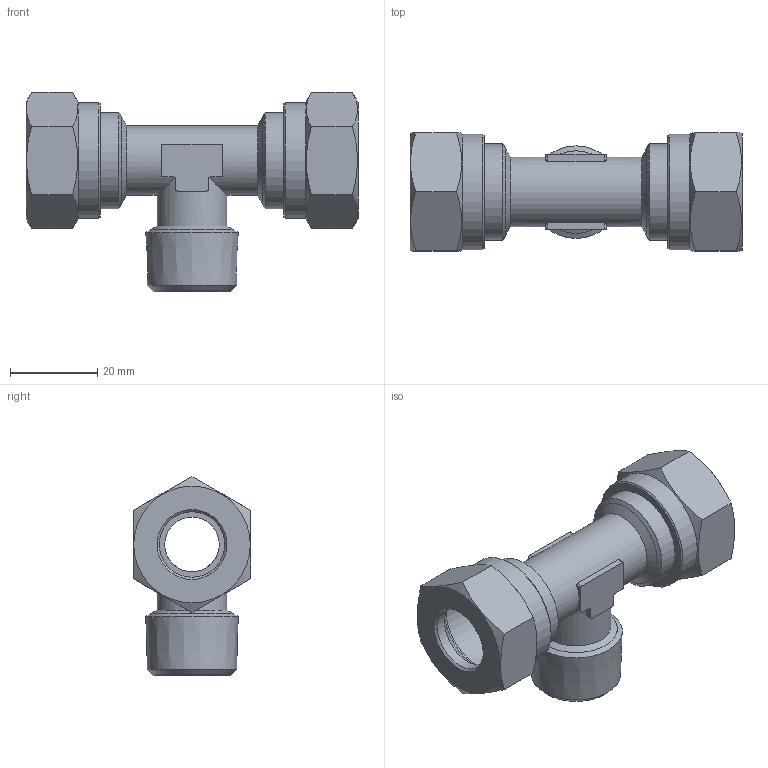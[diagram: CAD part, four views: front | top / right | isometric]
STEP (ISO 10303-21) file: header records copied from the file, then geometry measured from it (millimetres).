
FILE_DESCRIPTION(('Bauteilbeschreibung','HiCAD-Model','HiCAD-STEP-TRANSLATION','Bauteilbeschreibung'),'2;1');
FILE_NAME('B:/ABGLEICH/ZEICHNUNGEN/STEP FÜR INTERNET/STEP/207/92212_207_15_1-2.STP','2011-10-20T08:23:49+00:00',('Konstrukteur'),('Konstrukteur Firma GmbH'),' HiCAD neXt 2008, Step 3.1.1401.2J ','HiCAD neXt 2008','confidential');
FILE_SCHEMA(('AUTOMOTIVE_DESIGN { 1 2 10303 214 0 1 1 1 }'));
Length unit declared in the file: millimetre
Products named in the file (12): A2212_207_15_1_2; A2212; A22120; DIN 13_M22X1_5; DIN0130M22X105; R 1_2; A6807; A68070; DIN0130M22X1050; A68071; A68072; DIN0130M22X1051
Assembly tree (11 placements, depth 3):
  A2212_207_15_1_2
    A2212
    A22120
      DIN 13_M22X1_5
      DIN0130M22X105
      R 1_2
    A6807
    A68070
      DIN0130M22X1050
    A68071
    A68072
      DIN0130M22X1051
Bounding box: 76 x 27 x 45.59 mm (x, y, z)
Volume: 20267.8 mm3; surface area: 21696.1 mm2
Topology: 8 solids, 8 shells, 117 faces, 282 edges, 177 vertices
Faces by surface type: plane 43, cylinder 41, cone 33
Full cylindrical faces by diameter (mm): 12 x1, 12.5 x1, 15 x5, 16 x2, 20.16 x8, 22 x6, 26.5 x2
Entity records: 7619 total; most frequent: CARTESIAN_POINT 3989, DIRECTION 532, ORIENTED_EDGE 414, AXIS2_PLACEMENT_3D 231, EDGE_CURVE 207, COLOUR_RGB 194, PRESENTATION_STYLE_ASSIGNMENT 194, EDGE_LOOP 190
